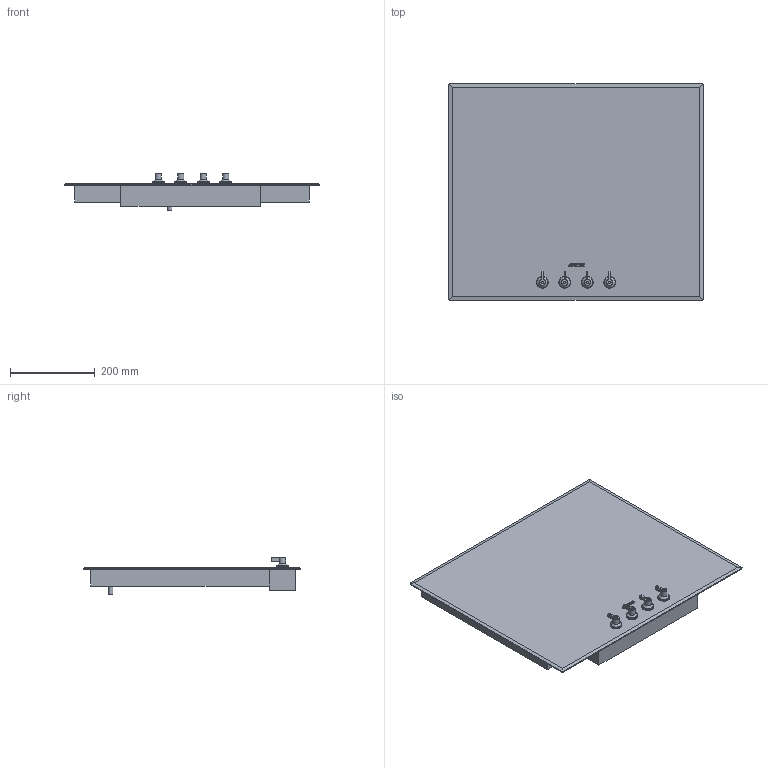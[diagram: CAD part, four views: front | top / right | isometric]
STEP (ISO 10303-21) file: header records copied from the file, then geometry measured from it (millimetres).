
FILE_DESCRIPTION(/* description */ (''),/* implementation_level */ '2;1');
FILE_NAME(/* name */ 'piano se364etbm.stp',/* time_stamp */ '2018-10-31T14:00:04+01:00',/* author */ (''),/* organization */ (''),/* preprocessor_version */ 'ST-DEVELOPER v16',/* originating_system */ 'SIEMENS PLM Software NX 11.0',/* authorisation */ '');
FILE_SCHEMA (('AUTOMOTIVE_DESIGN { 1 0 10303 214 3 1 1 1 }'));
Length unit declared in the file: millimetre
Products named in the file (1): gobb249C13F3gdfn
Bounding box: 600 x 510 x 87.5 mm (x, y, z)
Volume: 11530651.9 mm3; surface area: 1235102.1 mm2
Topology: 20 solids, 20 shells, 190 faces, 398 edges, 262 vertices
Faces by surface type: plane 114, cylinder 49, torus 12, extrusion 11, cone 4
Full cylindrical faces by diameter (mm): 3.37 x6, 6 x4, 10 x1, 14.996 x4, 15 x4, 22 x4, 28 x4
Entity records: 5292 total; most frequent: CARTESIAN_POINT 1218, DIRECTION 812, ORIENTED_EDGE 700, EDGE_CURVE 350, AXIS2_PLACEMENT_3D 302, VERTEX_POINT 254, EDGE_LOOP 248, VECTOR 208
